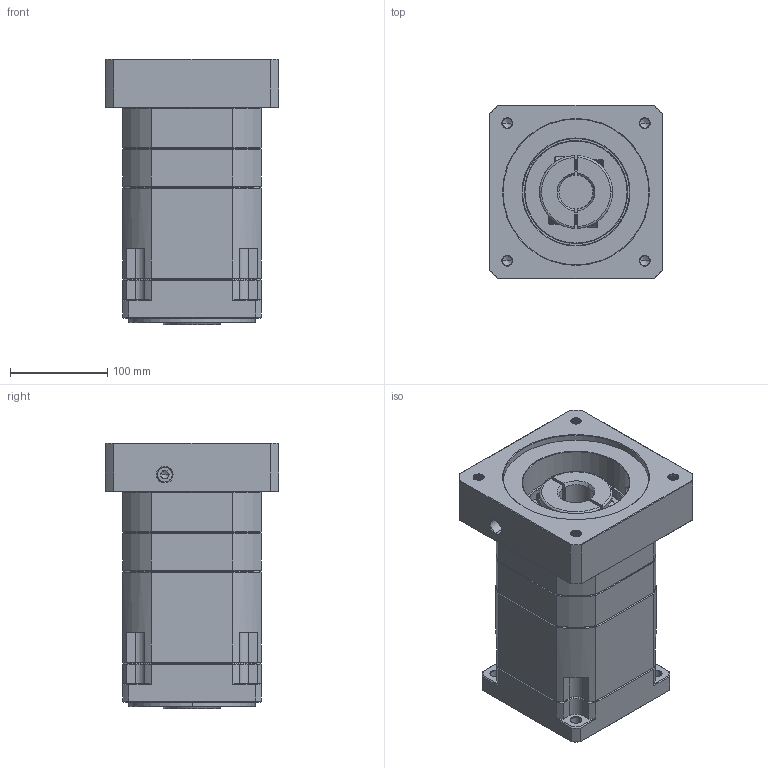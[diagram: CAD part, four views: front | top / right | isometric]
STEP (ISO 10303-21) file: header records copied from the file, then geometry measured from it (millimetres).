
FILE_DESCRIPTION (( 'STEP AP214' ), '1' );
FILE_NAME ('ZB142A-K35-L3-P2-35-150-200-M12.step', '2023-09-01T11:48:57', ( '' ), ( '' ), 'SwSTEP 2.0', 'SolidWorks 2016', '' );
FILE_SCHEMA (( 'AUTOMOTIVE_DESIGN' ));
Length unit declared in the file: millimetre
Products named in the file (1): ZB142A-K35-L3-P2-35-150-200-M12
Bounding box: 178 x 178 x 273.2 mm (x, y, z)
Volume: 5108148.9 mm3; surface area: 353044.2 mm2
Topology: 6 solids, 6 shells, 2267 faces, 6066 edges, 3902 vertices
Faces by surface type: plane 1108, bspline 404, cylinder 381, cone 354, torus 20
Entity records: 123870 total; most frequent: CARTESIAN_POINT 45307, ORIENTED_EDGE 12076, DIRECTION 9651, EDGE_CURVE 6038, VERTEX_POINT 3902, LINE 3849, VECTOR 3849, AXIS2_PLACEMENT_3D 2901
